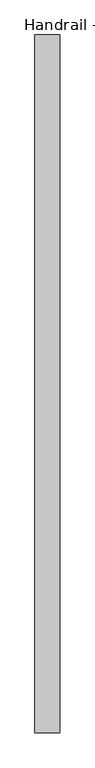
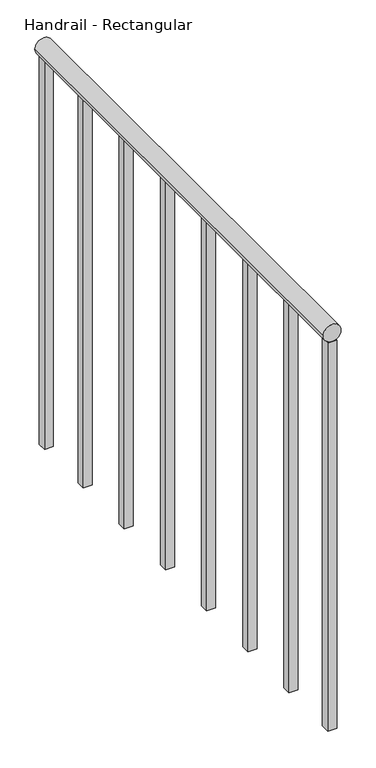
"""IFC4 building model written with IfcOpenShell, lengths in millimetres: railing geometry, Handrail - Rectangular."""

from ifc_helpers import new_model, si_unit, point, frame, frame_2d, origin, place, context, project, spatial, polyline, circle_curve, trimmed, segment, composite_curve, outline, extrude, source, transform, mapped, element, save


def handrail_rectangular_a0145d3a(model_context):
    return source(origin(), model_context, "Body", "SweptSolid", [
        extrude(outline(composite_curve([segment(trimmed(circle_curve(frame_2d((10039.35, -32167.4839563)), 19.05), [point((10039.35, -32186.5339563))], [point((10039.35, -32148.4339563))], False, "CARTESIAN"), True, "CONTINUOUS"), segment(trimmed(circle_curve(frame_2d((10039.35, -32167.4839563)), 19.05), [point((10039.35, -32148.4339563))], [point((10039.35, -32186.5339563))], False, "CARTESIAN"), True, "CONTINUOUS")], self_intersect=False)), frame((0.0, -35349.9683133, 0.0), z_axis=(0.0, 1.0, 0.0), x_axis=(0.0, 0.0, 1.0)), (0.0, 0.0, 1.0), 1066.8),
        extrude(outline(polyline([(-32157.9589563, -34445.0933133), (-32177.0089563, -34445.0933133), (-32177.0089563, -34426.0433133), (-32157.9589563, -34426.0433133), (-32157.9589563, -34445.0933133)])), frame((0.0, 0.0, 9144.0), z_axis=(0.0, 0.0, 1.0), x_axis=(1.0, 0.0, 0.0)), (0.0, 0.0, 1.0), 876.3),
        extrude(outline(polyline([(-32157.9589563, -34597.4933133), (-32177.0089563, -34597.4933133), (-32177.0089563, -34578.4433133), (-32157.9589563, -34578.4433133), (-32157.9589563, -34597.4933133)])), frame((0.0, 0.0, 9144.0), z_axis=(0.0, 0.0, 1.0), x_axis=(1.0, 0.0, 0.0)), (0.0, 0.0, 1.0), 876.3),
        extrude(outline(polyline([(-32157.9589563, -34749.8933133), (-32177.0089563, -34749.8933133), (-32177.0089563, -34730.8433133), (-32157.9589563, -34730.8433133), (-32157.9589563, -34749.8933133)])), frame((0.0, 0.0, 9144.0), z_axis=(0.0, 0.0, 1.0), x_axis=(1.0, 0.0, 0.0)), (0.0, 0.0, 1.0), 876.3),
        extrude(outline(polyline([(-32157.9589563, -34902.2933133), (-32177.0089563, -34902.2933133), (-32177.0089563, -34883.2433133), (-32157.9589563, -34883.2433133), (-32157.9589563, -34902.2933133)])), frame((0.0, 0.0, 9144.0), z_axis=(0.0, 0.0, 1.0), x_axis=(1.0, 0.0, 0.0)), (0.0, 0.0, 1.0), 876.3),
        extrude(outline(polyline([(-32157.9589563, -35054.6933133), (-32177.0089563, -35054.6933133), (-32177.0089563, -35035.6433133), (-32157.9589563, -35035.6433133), (-32157.9589563, -35054.6933133)])), frame((0.0, 0.0, 9144.0), z_axis=(0.0, 0.0, 1.0), x_axis=(1.0, 0.0, 0.0)), (0.0, 0.0, 1.0), 876.3),
        extrude(outline(polyline([(-32157.9589563, -35207.0933133), (-32177.0089563, -35207.0933133), (-32177.0089563, -35188.0433133), (-32157.9589563, -35188.0433133), (-32157.9589563, -35207.0933133)])), frame((0.0, 0.0, 9144.0), z_axis=(0.0, 0.0, 1.0), x_axis=(1.0, 0.0, 0.0)), (0.0, 0.0, 1.0), 876.3),
        extrude(outline(polyline([(-32157.9589563, -34302.2183133), (-32177.0089563, -34302.2183133), (-32177.0089563, -34283.1683133), (-32157.9589563, -34283.1683133), (-32157.9589563, -34302.2183133)])), frame((0.0, 0.0, 9144.0), z_axis=(0.0, 0.0, 1.0), x_axis=(1.0, 0.0, 0.0)), (0.0, 0.0, 1.0), 876.3),
        extrude(outline(polyline([(-32157.9589563, -35349.9683133), (-32177.0089563, -35349.9683133), (-32177.0089563, -35330.9183133), (-32157.9589563, -35330.9183133), (-32157.9589563, -35349.9683133)])), frame((0.0, 0.0, 9144.0), z_axis=(0.0, 0.0, 1.0), x_axis=(1.0, 0.0, 0.0)), (0.0, 0.0, 1.0), 876.3),
    ])


if __name__ == "__main__":
    model = new_model("IFC4")
    model_context = context("Model", 3, world=origin())
    ifc_project = project(units=[si_unit("LENGTHUNIT", "METRE", prefix="MILLI")], contexts=[model_context])
    site = spatial("IfcSite", under=ifc_project)
    building = spatial("IfcBuilding", under=site)
    placement = place(None, origin())
    handrail_rectangular_shape = handrail_rectangular_a0145d3a(model_context)
    element("IfcRailing", 1, ObjectType="Handrail - Rectangular", at=placement, inside=building, context=model_context, shape_type="MappedRepresentation", body=[
        mapped(handrail_rectangular_shape, transform((0.0, 0.0, 0.0), x_axis=(1.0, 0.0, 0.0), y_axis=(0.0, 1.0, 0.0), z_axis=(0.0, 0.0, 1.0))),
    ])
    save(model, "model.ifc")
